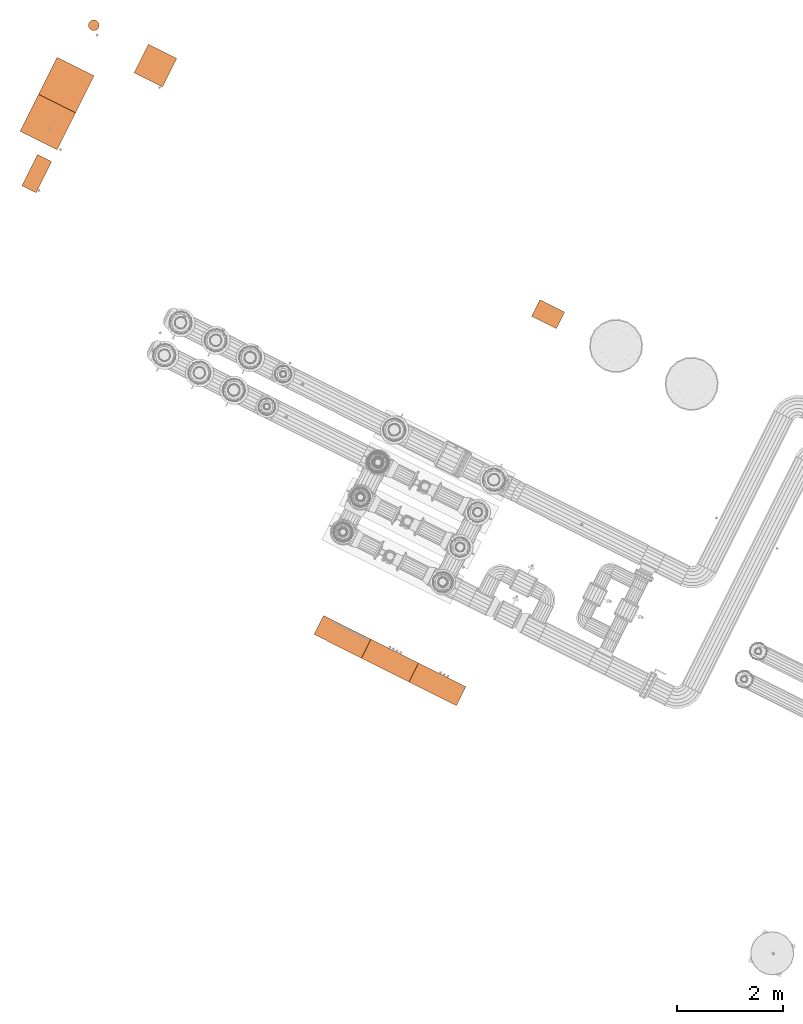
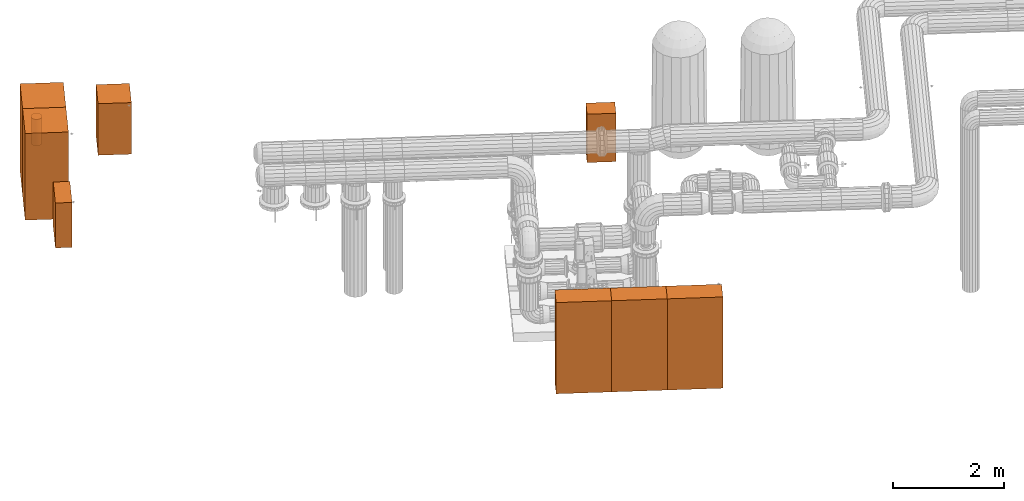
# One storey, part 145 of 152: 9 proxies.
"""IFC2X3 building model written with IfcOpenShell, lengths in metres."""

from ifc_helpers import new_model, si_unit, derived_unit, direction, frame, origin, origin_2d_with_axis, place, context, subcontext, project, spatial, circle, extrude, faceted_brep, source, transform, mapped, material, type_object, type_shapes, element, save


model = new_model("IFC2X3")

# Units and contexts
model_context = context("Model", 3, precision=5.2338327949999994e-05, world=origin(), true_north=direction((0.0, 1.0)))
body_context = subcontext(model_context, "Body", "Model", "MODEL_VIEW")
ifc_project = project(units=[si_unit("LENGTHUNIT", "METRE"), si_unit("AREAUNIT", "SQUARE_METRE"), si_unit("VOLUMEUNIT", "CUBIC_METRE"), si_unit("MASSUNIT", "GRAM", prefix="KILO"), si_unit("PLANEANGLEUNIT", "RADIAN"), derived_unit("THERMALTRANSMITTANCEUNIT", [(si_unit("MASSUNIT", "GRAM", prefix="KILO"), 1), (si_unit("THERMODYNAMICTEMPERATUREUNIT", "KELVIN"), -1), (si_unit("TIMEUNIT", "SECOND"), -3)])], contexts=[model_context])

# Site, building, storey
site_placement = place(None, frame((0.0, 0.0, 0.0), z_axis=(0.0, 0.0, 1.0), x_axis=(0.8939966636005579, -0.4480736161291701, 0.0)))
site = spatial("IfcSite", under=ifc_project, at=site_placement, Name="Default", CompositionType="ELEMENT")
building_placement = place(site_placement, origin())
building = spatial("IfcBuilding", under=site, at=building_placement, CompositionType="ELEMENT")
storey_placement = place(building_placement, frame((0.0, 0.0, 2.7499999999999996)))
storey = spatial("IfcBuildingStorey", under=building, at=storey_placement, Name="1. Obergeschoss", CompositionType="ELEMENT", Elevation=2.7499999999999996)

# Proxies
ifc_material_1 = material(Name="IfcSurfaceStyle #228457")
building_element_proxy_type_1 = type_object("IfcBuildingElementProxyType", Name="Quader:Quader", PredefinedType="NOTDEFINED", material=ifc_material_1)
shared_shape_1 = source(origin(), body_context, "Body", "Brep", [
    faceted_brep([(9.99657416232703, 3.8900000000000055, 2.95), (10.99657416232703, 3.8900000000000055, 2.95), (10.99657416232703, 3.8900000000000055, 4.95), (9.99657416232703, 3.8900000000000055, 4.95), (10.99657416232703, 4.290000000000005, 4.95), (9.99657416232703, 4.290000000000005, 4.95), (10.99657416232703, 4.290000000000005, 2.95), (9.99657416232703, 4.290000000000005, 2.95)], [[[0, 1, 2, 3]], [[3, 2, 4, 5]], [[5, 4, 6, 7]], [[7, 6, 1, 0]], [[0, 3, 5, 7]], [[6, 4, 2, 1]]]),
])
type_shapes(building_element_proxy_type_1, [shared_shape_1])
proxy_1_placement = place(storey_placement, frame((0.0, 0.0, -2.7499999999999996)))
element("IfcBuildingElementProxy", 1, at=proxy_1_placement, inside=storey, type_object=building_element_proxy_type_1, material=ifc_material_1, Name="Quader", ObjectType="Quader", context=body_context, shape_type="MappedRepresentation", body=[
    mapped(shared_shape_1, transform((0.0, 0.0, 0.0), scale=1.0)),
])
building_element_proxy_type_2 = type_object("IfcBuildingElementProxyType", Name="Quader 228470:Quader 228470", PredefinedType="NOTDEFINED", material=ifc_material_1)
shared_shape_2 = source(origin(), body_context, "Body", "Brep", [
    faceted_brep([(10.99657416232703, 3.8900000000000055, 2.95), (11.99657416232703, 3.8900000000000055, 2.95), (11.99657416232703, 3.8900000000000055, 4.95), (10.99657416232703, 3.8900000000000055, 4.95), (11.99657416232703, 4.290000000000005, 4.95), (10.99657416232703, 4.290000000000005, 4.95), (11.99657416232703, 4.290000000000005, 2.95), (10.99657416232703, 4.290000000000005, 2.95)], [[[0, 1, 2, 3]], [[3, 2, 4, 5]], [[5, 4, 6, 7]], [[7, 6, 1, 0]], [[0, 3, 5, 7]], [[6, 4, 2, 1]]]),
])
type_shapes(building_element_proxy_type_2, [shared_shape_2])
proxy_2_placement = place(storey_placement, frame((0.0, 0.0, -2.7499999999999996)))
element("IfcBuildingElementProxy", 2, at=proxy_2_placement, inside=storey, type_object=building_element_proxy_type_2, material=ifc_material_1, Name="Quader", ObjectType="Quader", context=body_context, shape_type="MappedRepresentation", body=[
    mapped(shared_shape_2, transform((0.0, 0.0, 0.0), scale=1.0)),
])
building_element_proxy_type_3 = type_object("IfcBuildingElementProxyType", Name="Quader 228493:Quader 228493", PredefinedType="NOTDEFINED", material=ifc_material_1)
shared_shape_3 = source(origin(), body_context, "Body", "Brep", [
    faceted_brep([(11.99657416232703, 3.8900000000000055, 2.95), (12.99657416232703, 3.8900000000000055, 2.95), (12.99657416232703, 3.8900000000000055, 4.95), (11.99657416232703, 3.8900000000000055, 4.95), (12.99657416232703, 4.290000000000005, 4.95), (11.99657416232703, 4.290000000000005, 4.95), (12.99657416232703, 4.290000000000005, 2.95), (11.99657416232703, 4.290000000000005, 2.95)], [[[0, 1, 2, 3]], [[3, 2, 4, 5]], [[5, 4, 6, 7]], [[7, 6, 1, 0]], [[0, 3, 5, 7]], [[6, 4, 2, 1]]]),
])
type_shapes(building_element_proxy_type_3, [shared_shape_3])
proxy_3_placement = place(storey_placement, frame((0.0, 0.0, -2.7499999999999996)))
element("IfcBuildingElementProxy", 3, at=proxy_3_placement, inside=storey, type_object=building_element_proxy_type_3, material=ifc_material_1, Name="Quader", ObjectType="Quader", context=body_context, shape_type="MappedRepresentation", body=[
    mapped(shared_shape_3, transform((0.0, 0.0, 0.0), scale=1.0)),
])
ifc_material_2 = material(Name="IfcSurfaceStyle #270045")
building_element_proxy_type_4 = type_object("IfcBuildingElementProxyType", Name="Quader 270063:Quader 270063", PredefinedType="NOTDEFINED", material=ifc_material_2)
shared_shape_4 = source(origin(), body_context, "Body", "Brep", [
    faceted_brep([(10.977475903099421, 11.086446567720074, 2.95), (11.497475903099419, 11.086446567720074, 2.95), (11.497475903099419, 11.086446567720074, 4.01), (10.977475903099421, 11.086446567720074, 4.01), (11.497475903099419, 11.436446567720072, 4.01), (10.977475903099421, 11.436446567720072, 4.01), (11.497475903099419, 11.436446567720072, 2.95), (10.977475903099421, 11.436446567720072, 2.95)], [[[0, 1, 2, 3]], [[3, 2, 4, 5]], [[5, 4, 6, 7]], [[7, 6, 1, 0]], [[0, 3, 5, 7]], [[6, 4, 2, 1]]]),
])
type_shapes(building_element_proxy_type_4, [shared_shape_4])
proxy_4_placement = place(storey_placement, frame((0.0, 0.0, -2.7499999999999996)))
element("IfcBuildingElementProxy", 4, at=proxy_4_placement, inside=storey, type_object=building_element_proxy_type_4, material=ifc_material_2, Name="Quader", ObjectType="Quader", context=body_context, shape_type="MappedRepresentation", body=[
    mapped(shared_shape_4, transform((0.0, 0.0, 0.0), scale=1.0)),
])
building_element_proxy_type_5 = type_object("IfcBuildingElementProxyType", Name="Quader 270130:Quader 270130", PredefinedType="NOTDEFINED", material=ifc_material_2)
shared_shape_5 = source(origin(), body_context, "Body", "Brep", [
    faceted_brep([(0.7957517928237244, 10.662005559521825, 2.95), (1.5757517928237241, 10.662005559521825, 2.95), (1.5757517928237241, 10.662005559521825, 4.85), (0.7957517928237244, 10.662005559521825, 4.85), (1.5757517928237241, 11.442005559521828, 4.85), (0.7957517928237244, 11.442005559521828, 4.85), (1.5757517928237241, 11.442005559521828, 2.95), (0.7957517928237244, 11.442005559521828, 2.95)], [[[0, 1, 2, 3]], [[3, 2, 4, 5]], [[5, 4, 6, 7]], [[7, 6, 1, 0]], [[0, 3, 5, 7]], [[6, 4, 2, 1]]]),
])
type_shapes(building_element_proxy_type_5, [shared_shape_5])
proxy_5_placement = place(storey_placement, frame((0.0, 0.0, -2.7499999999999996)))
element("IfcBuildingElementProxy", 5, at=proxy_5_placement, inside=storey, type_object=building_element_proxy_type_5, material=ifc_material_2, Name="Quader", ObjectType="Quader", context=body_context, shape_type="MappedRepresentation", body=[
    mapped(shared_shape_5, transform((0.0, 0.0, 0.0), scale=1.0)),
])
building_element_proxy_type_6 = type_object("IfcBuildingElementProxyType", Name="Quader 270197:Quader 270197", PredefinedType="NOTDEFINED", material=ifc_material_2)
shared_shape_6 = source(origin(), body_context, "Body", "Brep", [
    faceted_brep([(0.7957517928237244, 9.882005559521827, 2.95), (1.5757517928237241, 9.882005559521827, 2.95), (1.5757517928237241, 9.882005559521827, 4.85), (0.7957517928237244, 9.882005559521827, 4.85), (1.5757517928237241, 10.662005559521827, 4.85), (0.7957517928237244, 10.662005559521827, 4.85), (1.5757517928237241, 10.662005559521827, 2.95), (0.7957517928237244, 10.662005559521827, 2.95)], [[[0, 1, 2, 3]], [[3, 2, 4, 5]], [[5, 4, 6, 7]], [[7, 6, 1, 0]], [[0, 3, 5, 7]], [[6, 4, 2, 1]]]),
])
type_shapes(building_element_proxy_type_6, [shared_shape_6])
proxy_6_placement = place(storey_placement, frame((0.0, 0.0, -2.7499999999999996)))
element("IfcBuildingElementProxy", 6, at=proxy_6_placement, inside=storey, type_object=building_element_proxy_type_6, material=ifc_material_2, Name="Quader", ObjectType="Quader", context=body_context, shape_type="MappedRepresentation", body=[
    mapped(shared_shape_6, transform((0.0, 0.0, 0.0), scale=1.0)),
])
building_element_proxy_type_7 = type_object("IfcBuildingElementProxyType", Name="Quader 270220:Quader 270220", PredefinedType="NOTDEFINED", material=ifc_material_2)
shared_shape_7 = source(origin(), body_context, "Body", "Brep", [
    faceted_brep([(1.2869866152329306, 8.981056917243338, 2.95), (1.5869866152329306, 8.981056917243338, 2.95), (1.5869866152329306, 8.981056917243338, 3.935), (1.2869866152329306, 8.981056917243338, 3.935), (1.5869866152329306, 9.641056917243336, 3.935), (1.2869866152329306, 9.641056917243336, 3.935), (1.5869866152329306, 9.641056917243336, 2.95), (1.2869866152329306, 9.641056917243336, 2.95)], [[[0, 1, 2, 3]], [[3, 2, 4, 5]], [[5, 4, 6, 7]], [[7, 6, 1, 0]], [[0, 3, 5, 7]], [[6, 4, 2, 1]]]),
])
type_shapes(building_element_proxy_type_7, [shared_shape_7])
proxy_7_placement = place(storey_placement, frame((0.0, 0.0, -2.7499999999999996)))
element("IfcBuildingElementProxy", 7, at=proxy_7_placement, inside=storey, type_object=building_element_proxy_type_7, material=ifc_material_2, Name="Quader", ObjectType="Quader", context=body_context, shape_type="MappedRepresentation", body=[
    mapped(shared_shape_7, transform((0.0, 0.0, 0.0), scale=1.0)),
])
building_element_proxy_type_8 = type_object("IfcBuildingElementProxyType", Name="Zylinder:Zylinder", PredefinedType="NOTDEFINED", material=ifc_material_2)
shared_shape_8 = source(origin(), body_context, "Body", "SweptSolid", [
    extrude(circle(Radius=0.1, at=origin_2d_with_axis()), frame((1.1437389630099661, 12.290966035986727, 2.95)), (0.0, 0.0, 1.0), 0.5799999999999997),
])
type_shapes(building_element_proxy_type_8, [shared_shape_8])
proxy_8_placement = place(storey_placement, frame((0.0, 0.0, -2.7499999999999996)))
element("IfcBuildingElementProxy", 8, at=proxy_8_placement, inside=storey, type_object=building_element_proxy_type_8, material=ifc_material_2, Name="Zylinder", ObjectType="Zylinder", context=body_context, shape_type="MappedRepresentation", body=[
    mapped(shared_shape_8, transform((0.0, 0.0, 0.0), scale=1.0)),
])
building_element_proxy_type_9 = type_object("IfcBuildingElementProxyType", Name="Quader 270309:Quader 270309", PredefinedType="NOTDEFINED", material=ifc_material_2)
shared_shape_9 = source(origin(), body_context, "Body", "Brep", [
    faceted_brep([(2.2231500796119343, 11.832928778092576, 2.95), (2.8231500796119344, 11.832928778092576, 2.95), (2.8231500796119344, 11.832928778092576, 4.08), (2.2231500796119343, 11.832928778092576, 4.08), (2.8231500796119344, 12.432928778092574, 4.08), (2.2231500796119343, 12.432928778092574, 4.08), (2.8231500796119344, 12.432928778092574, 2.95), (2.2231500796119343, 12.432928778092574, 2.95)], [[[0, 1, 2, 3]], [[3, 2, 4, 5]], [[5, 4, 6, 7]], [[7, 6, 1, 0]], [[0, 3, 5, 7]], [[6, 4, 2, 1]]]),
])
type_shapes(building_element_proxy_type_9, [shared_shape_9])
proxy_9_placement = place(storey_placement, frame((0.0, 0.0, -2.7499999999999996)))
element("IfcBuildingElementProxy", 9, at=proxy_9_placement, inside=storey, type_object=building_element_proxy_type_9, material=ifc_material_2, Name="Quader", ObjectType="Quader", context=body_context, shape_type="MappedRepresentation", body=[
    mapped(shared_shape_9, transform((0.0, 0.0, 0.0), scale=1.0)),
])

save(model, "model.ifc")
